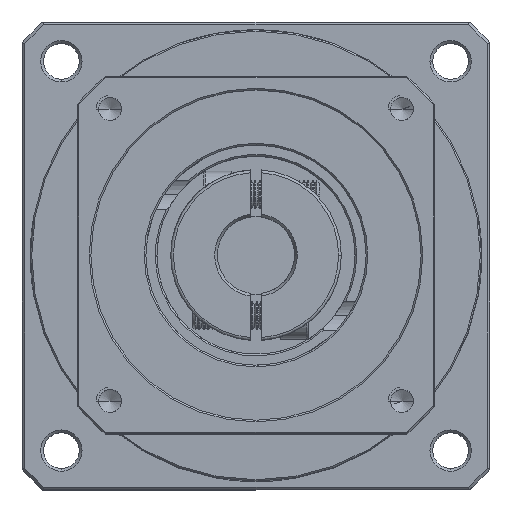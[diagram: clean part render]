
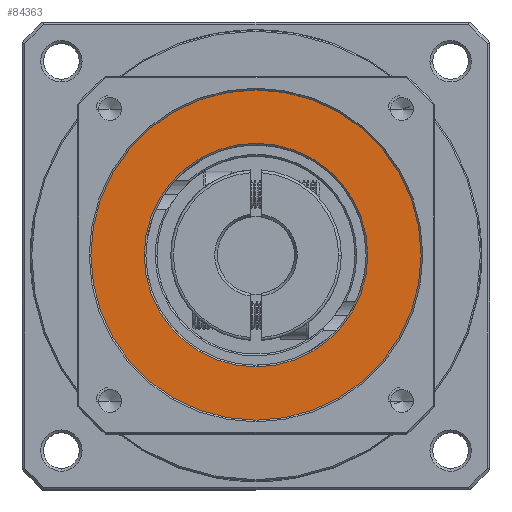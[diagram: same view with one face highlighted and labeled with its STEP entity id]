
A CAD part, top view. The second image highlights one B-rep face of the part: STEP entity #84363.
In plain terms, the highlighted planar face has unit normal (0, 0, 1).
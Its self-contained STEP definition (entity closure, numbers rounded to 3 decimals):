
#5710 = FACE_OUTER_BOUND ( 'NONE', #35868, .T. ) ;
#7658 = ORIENTED_EDGE ( 'NONE', *, *, #85922, .T. ) ;
#8243 = EDGE_CURVE ( 'NONE', #52964, #32193, #44220, .T. ) ;
#10284 = CARTESIAN_POINT ( 'NONE',  ( -63.221, 21.659, 10.244 ) ) ;
#10765 = EDGE_LOOP ( 'NONE', ( #43921, #7658 ) ) ;
#12312 = CIRCLE ( 'NONE', #55089, 20.3 ) ;
#14603 = CARTESIAN_POINT ( 'NONE',  ( -42.921, 21.659, 10.244 ) ) ;
#18563 = CARTESIAN_POINT ( 'NONE',  ( -63.221, 21.659, 10.244 ) ) ;
#18747 = DIRECTION ( 'NONE',  ( 1., 0., 0. ) ) ;
#18911 = DIRECTION ( 'NONE',  ( 0., 0., 1. ) ) ;
#19002 = CARTESIAN_POINT ( 'NONE',  ( -63.221, 21.659, 10.244 ) ) ;
#19189 = DIRECTION ( 'NONE',  ( 1., 0., 0. ) ) ;
#21861 = AXIS2_PLACEMENT_3D ( 'NONE', #18563, #79740, #27423 ) ;
#27423 = DIRECTION ( 'NONE',  ( 1., 0., 0. ) ) ;
#28622 = CIRCLE ( 'NONE', #94789, 30. ) ;
#32193 = VERTEX_POINT ( 'NONE', #40210 ) ;
#35868 = EDGE_LOOP ( 'NONE', ( #54515, #97268 ) ) ;
#37517 = AXIS2_PLACEMENT_3D ( 'NONE', #100061, #47890, #108802 ) ;
#38830 = CARTESIAN_POINT ( 'NONE',  ( -63.221, 21.659, 10.244 ) ) ;
#40210 = CARTESIAN_POINT ( 'NONE',  ( -33.221, 21.659, 10.244 ) ) ;
#43921 = ORIENTED_EDGE ( 'NONE', *, *, #108481, .T. ) ;
#44220 = CIRCLE ( 'NONE', #63950, 30. ) ;
#47603 = DIRECTION ( 'NONE',  ( 1., 0., 0. ) ) ;
#47890 = DIRECTION ( 'NONE',  ( 0., 0., -1. ) ) ;
#52964 = VERTEX_POINT ( 'NONE', #61439 ) ;
#54515 = ORIENTED_EDGE ( 'NONE', *, *, #93180, .T. ) ;
#55089 = AXIS2_PLACEMENT_3D ( 'NONE', #10284, #71600, #19189 ) ;
#61439 = CARTESIAN_POINT ( 'NONE',  ( -93.221, 21.659, 10.244 ) ) ;
#63950 = AXIS2_PLACEMENT_3D ( 'NONE', #19002, #18911, #18747 ) ;
#71600 = DIRECTION ( 'NONE',  ( 0., 0., -1. ) ) ;
#79630 = CIRCLE ( 'NONE', #37517, 20.3 ) ;
#79740 = DIRECTION ( 'NONE',  ( 0., 0., 1. ) ) ;
#84363 = ADVANCED_FACE ( 'NONE', ( #95996, #5710 ), #96856, .T. ) ;
#85922 = EDGE_CURVE ( 'NONE', #110101, #95249, #12312, .T. ) ;
#93180 = EDGE_CURVE ( 'NONE', #32193, #52964, #28622, .T. ) ;
#94299 = CARTESIAN_POINT ( 'NONE',  ( -83.521, 21.659, 10.244 ) ) ;
#94789 = AXIS2_PLACEMENT_3D ( 'NONE', #38830, #99800, #47603 ) ;
#95249 = VERTEX_POINT ( 'NONE', #14603 ) ;
#95996 = FACE_BOUND ( 'NONE', #10765, .T. ) ;
#96856 = PLANE ( 'NONE',  #21861 ) ;
#97268 = ORIENTED_EDGE ( 'NONE', *, *, #8243, .T. ) ;
#99800 = DIRECTION ( 'NONE',  ( 0., 0., 1. ) ) ;
#100061 = CARTESIAN_POINT ( 'NONE',  ( -63.221, 21.659, 10.244 ) ) ;
#108481 = EDGE_CURVE ( 'NONE', #95249, #110101, #79630, .T. ) ;
#108802 = DIRECTION ( 'NONE',  ( 1., 0., 0. ) ) ;
#110101 = VERTEX_POINT ( 'NONE', #94299 ) ;
